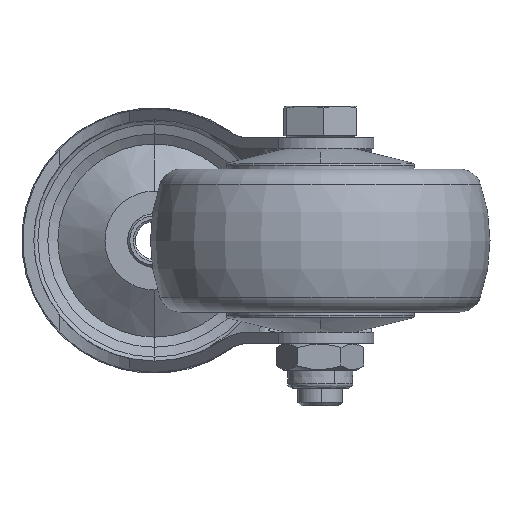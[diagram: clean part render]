
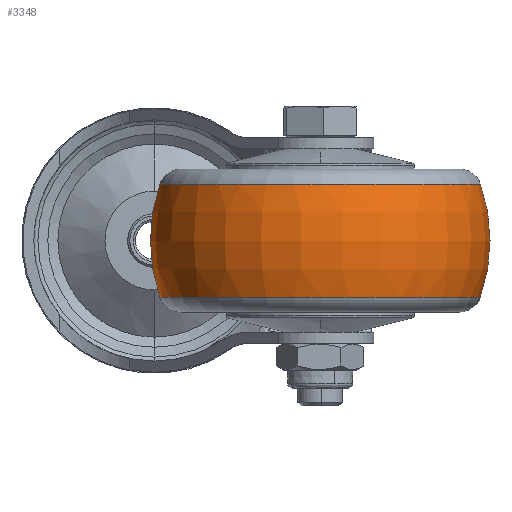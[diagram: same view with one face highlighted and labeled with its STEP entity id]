
A CAD part, front view. The second image highlights one B-rep face of the part: STEP entity #3348.
In plain terms, the highlighted toroidal (fillet/blend) face has major radius 0.321 mm and minor radius 38.321 mm.
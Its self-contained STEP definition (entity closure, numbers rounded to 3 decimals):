
#162 = VERTEX_POINT ( 'NONE', #8235 ) ;
#178 = CIRCLE ( 'NONE', #8331, 38.321 ) ;
#184 = ORIENTED_EDGE ( 'NONE', *, *, #4102, .T. ) ;
#311 = CIRCLE ( 'NONE', #3550, 35.852 ) ;
#317 = AXIS2_PLACEMENT_3D ( 'NONE', #3718, #3591, #8411 ) ;
#722 = CARTESIAN_POINT ( 'NONE',  ( -2.946, 0., 0.321 ) ) ;
#1002 = VERTEX_POINT ( 'NONE', #5151 ) ;
#2042 = DIRECTION ( 'NONE',  ( 0., 1., 0. ) ) ;
#2108 = DIRECTION ( 'NONE',  ( -1., 0., 0. ) ) ;
#2175 = EDGE_CURVE ( 'NONE', #162, #2577, #3619, .T. ) ;
#2317 = DIRECTION ( 'NONE',  ( 0., 0., -1. ) ) ;
#2577 = VERTEX_POINT ( 'NONE', #3259 ) ;
#2744 = ORIENTED_EDGE ( 'NONE', *, *, #2916, .F. ) ;
#2869 = CARTESIAN_POINT ( 'NONE',  ( 9.704, 0., 0. ) ) ;
#2885 = FACE_OUTER_BOUND ( 'NONE', #4470, .T. ) ;
#2916 = EDGE_CURVE ( 'NONE', #1002, #4883, #311, .T. ) ;
#3167 = DIRECTION ( 'NONE',  ( -1., 0., 0. ) ) ;
#3250 = DIRECTION ( 'NONE',  ( 0., 0., 1. ) ) ;
#3259 = CARTESIAN_POINT ( 'NONE',  ( 9.704, 0., 35.852 ) ) ;
#3276 = EDGE_CURVE ( 'NONE', #162, #1002, #178, .T. ) ;
#3348 = ADVANCED_FACE ( 'NONE', ( #2885 ), #7774, .T. ) ;
#3550 = AXIS2_PLACEMENT_3D ( 'NONE', #6491, #3167, #3250 ) ;
#3591 = DIRECTION ( 'NONE',  ( -1., 0., 0. ) ) ;
#3619 = CIRCLE ( 'NONE', #6696, 35.852 ) ;
#3718 = CARTESIAN_POINT ( 'NONE',  ( -2.946, 0., 0. ) ) ;
#3968 = ORIENTED_EDGE ( 'NONE', *, *, #2175, .T. ) ;
#4102 = EDGE_CURVE ( 'NONE', #2577, #4883, #5101, .T. ) ;
#4470 = EDGE_LOOP ( 'NONE', ( #5842, #3968, #184, #2744 ) ) ;
#4883 = VERTEX_POINT ( 'NONE', #5561 ) ;
#5101 = CIRCLE ( 'NONE', #5806, 38.321 ) ;
#5151 = CARTESIAN_POINT ( 'NONE',  ( -15.597, 0., -35.852 ) ) ;
#5561 = CARTESIAN_POINT ( 'NONE',  ( -15.597, 0., 35.852 ) ) ;
#5806 = AXIS2_PLACEMENT_3D ( 'NONE', #8466, #7016, #2317 ) ;
#5842 = ORIENTED_EDGE ( 'NONE', *, *, #3276, .F. ) ;
#6491 = CARTESIAN_POINT ( 'NONE',  ( -15.597, 0., 0. ) ) ;
#6696 = AXIS2_PLACEMENT_3D ( 'NONE', #2869, #2108, #6815 ) ;
#6815 = DIRECTION ( 'NONE',  ( 0., 0., 1. ) ) ;
#7016 = DIRECTION ( 'NONE',  ( 0., -1., 0. ) ) ;
#7451 = DIRECTION ( 'NONE',  ( 0., 0., 1. ) ) ;
#7774 = TOROIDAL_SURFACE ( 'NONE', #317, -0.321, 38.321 ) ;
#8235 = CARTESIAN_POINT ( 'NONE',  ( 9.704, 0., -35.852 ) ) ;
#8331 = AXIS2_PLACEMENT_3D ( 'NONE', #722, #2042, #7451 ) ;
#8411 = DIRECTION ( 'NONE',  ( 0., 0., -1. ) ) ;
#8466 = CARTESIAN_POINT ( 'NONE',  ( -2.946, 0., -0.321 ) ) ;
